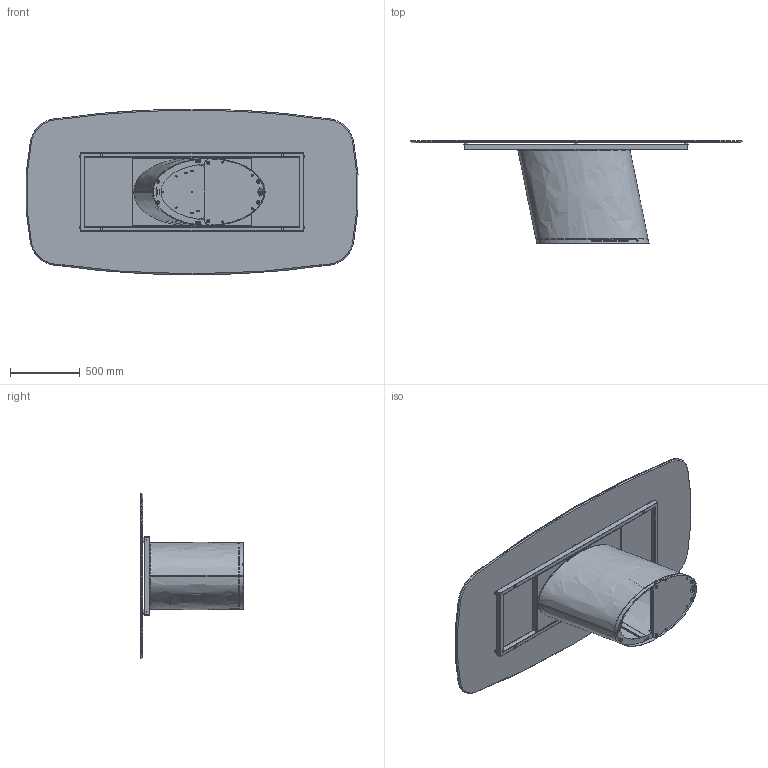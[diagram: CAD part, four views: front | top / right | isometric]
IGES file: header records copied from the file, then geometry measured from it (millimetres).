
Start section: SolidWorks IGES file using analytic representation for surfaces
Global section: file name: Y:\eforma\TECNICO\SOLIDWORKS\E-FORMA\1-TAVOLI\DORADO\02 parts\DO42C.IGS; native system: SolidWorks 2022; preprocessor: SolidWorks 2022; author: eforma.tech; date: 240806.151500; units: millimetre
Bounding box: 2382.15 x 738 x 1190 mm (x, y, z)
Volume: 53924590.4 mm3; surface area: 17827321.9 mm2
Topology: 58 solids, 58 shells, 1313 faces, 3125 edges, 1938 vertices
Faces by surface type: revolution 817, plane 470, bspline 26
